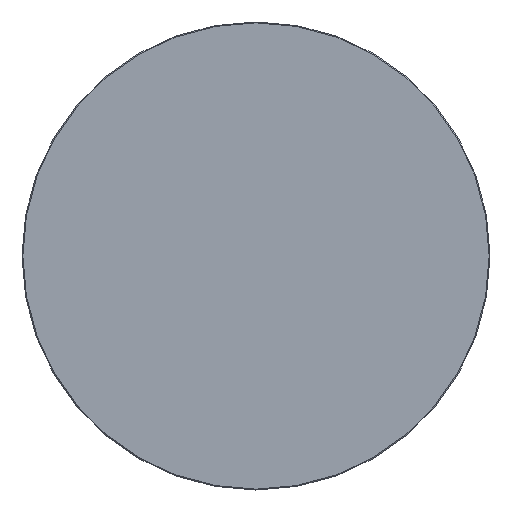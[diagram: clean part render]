
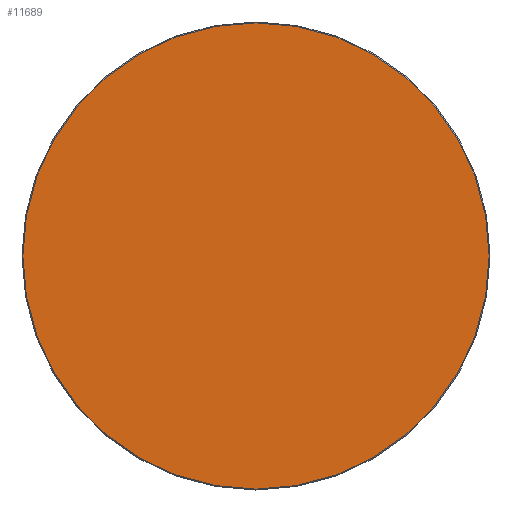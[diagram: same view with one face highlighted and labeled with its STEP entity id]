
A CAD part, top view. The second image highlights one B-rep face of the part: STEP entity #11689.
In plain terms, the highlighted planar face has unit normal (0, 0, 1).
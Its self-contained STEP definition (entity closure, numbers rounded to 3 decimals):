
#11614=CARTESIAN_POINT('',(0.,0.,20.));
#11615=DIRECTION('',(1.,0.,0.));
#11616=DIRECTION('',(0.,0.,1.));
#11617=AXIS2_PLACEMENT_3D('',#11614,#11616,#11615);
#11618=PLANE('',#11617);
#11619=CARTESIAN_POINT('',(-0.5,-398.5,20.));
#11620=VERTEX_POINT('',#11619);
#11621=CARTESIAN_POINT('',(0.5,-398.5,20.));
#11622=VERTEX_POINT('',#11621);
#11623=CARTESIAN_POINT('',(-0.5,-398.5,20.));
#11624=DIRECTION('',(1.,0.,0.));
#11625=VECTOR('',#11624,1.);
#11626=LINE('',#11623,#11625);
#11627=EDGE_CURVE('',#11620,#11622,#11626,.T.);
#11628=ORIENTED_EDGE('E105',*,*,#11627,.T.);
#11629=CARTESIAN_POINT('',(398.5,-0.5,20.));
#11630=VERTEX_POINT('',#11629);
#11631=CARTESIAN_POINT('',(0.5,-0.5,20.));
#11632=DIRECTION('',(0.,-1.,0.));
#11633=DIRECTION('',(0.,0.,1.));
#11634=AXIS2_PLACEMENT_3D('',#11631,#11633,#11632);
#11635=CIRCLE('',#11634,398.);
#11636=EDGE_CURVE('',#11622,#11630,#11635,.T.);
#11637=ORIENTED_EDGE('E107',*,*,#11636,.T.);
#11638=CARTESIAN_POINT('',(398.5,0.5,20.));
#11639=VERTEX_POINT('',#11638);
#11640=CARTESIAN_POINT('',(398.5,-0.5,20.));
#11641=DIRECTION('',(0.,1.,0.));
#11642=VECTOR('',#11641,1.);
#11643=LINE('',#11640,#11642);
#11644=EDGE_CURVE('',#11630,#11639,#11643,.T.);
#11645=ORIENTED_EDGE('E109',*,*,#11644,.T.);
#11646=CARTESIAN_POINT('',(0.5,398.5,20.));
#11647=VERTEX_POINT('',#11646);
#11648=CARTESIAN_POINT('',(0.5,0.5,20.));
#11649=DIRECTION('',(1.,0.,0.));
#11650=DIRECTION('',(0.,0.,1.));
#11651=AXIS2_PLACEMENT_3D('',#11648,#11650,#11649);
#11652=CIRCLE('',#11651,398.);
#11653=EDGE_CURVE('',#11639,#11647,#11652,.T.);
#11654=ORIENTED_EDGE('E111',*,*,#11653,.T.);
#11655=CARTESIAN_POINT('',(-0.5,398.5,20.));
#11656=VERTEX_POINT('',#11655);
#11657=CARTESIAN_POINT('',(0.5,398.5,20.));
#11658=DIRECTION('',(-1.,0.,0.));
#11659=VECTOR('',#11658,1.);
#11660=LINE('',#11657,#11659);
#11661=EDGE_CURVE('',#11647,#11656,#11660,.T.);
#11662=ORIENTED_EDGE('E113',*,*,#11661,.T.);
#11663=CARTESIAN_POINT('',(-398.5,0.5,20.));
#11664=VERTEX_POINT('',#11663);
#11665=CARTESIAN_POINT('',(-0.5,0.5,20.));
#11666=DIRECTION('',(0.,1.,0.));
#11667=DIRECTION('',(0.,0.,1.));
#11668=AXIS2_PLACEMENT_3D('',#11665,#11667,#11666);
#11669=CIRCLE('',#11668,398.);
#11670=EDGE_CURVE('',#11656,#11664,#11669,.T.);
#11671=ORIENTED_EDGE('E115',*,*,#11670,.T.);
#11672=CARTESIAN_POINT('',(-398.5,-0.5,20.));
#11673=VERTEX_POINT('',#11672);
#11674=CARTESIAN_POINT('',(-398.5,0.5,20.));
#11675=DIRECTION('',(0.,-1.,0.));
#11676=VECTOR('',#11675,1.);
#11677=LINE('',#11674,#11676);
#11678=EDGE_CURVE('',#11664,#11673,#11677,.T.);
#11679=ORIENTED_EDGE('E117',*,*,#11678,.T.);
#11680=CARTESIAN_POINT('',(-0.5,-0.5,20.));
#11681=DIRECTION('',(-1.,0.,0.));
#11682=DIRECTION('',(-0.,0.,1.));
#11683=AXIS2_PLACEMENT_3D('',#11680,#11682,#11681);
#11684=CIRCLE('',#11683,398.);
#11685=EDGE_CURVE('',#11673,#11620,#11684,.T.);
#11686=ORIENTED_EDGE('E119',*,*,#11685,.T.);
#11687=EDGE_LOOP('',(#11628,#11637,#11645,#11654,#11662,#11671,#11679,#11686));
#11688=FACE_OUTER_BOUND('',#11687,.T.);
#11689=ADVANCED_FACE('F2',(#11688),#11618,.T.);
